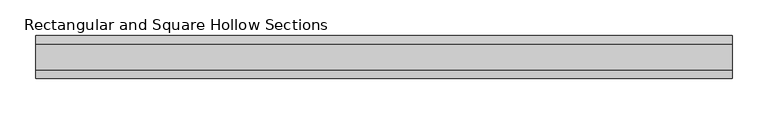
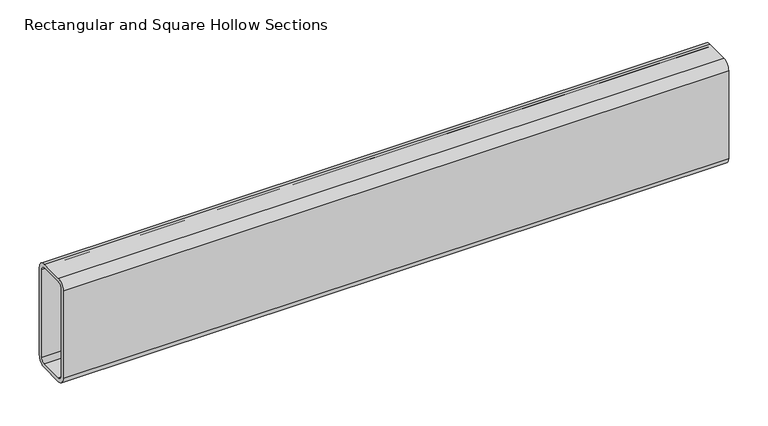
"""IFC4 building model written with IfcOpenShell, lengths in millimetres: beam geometry, Rectangular and Square Hollow Sections : TREC160x60x6."""

from ifc_helpers import new_model, si_unit, point, frame, frame_2d, origin, place, context, project, spatial, polyline, circle_curve, trimmed, segment, composite_curve, outline, extrude, source, transform, mapped, element, save


def rectangular_and_square_hollow_sections_2dbff78a(model_context):
    return source(origin(), model_context, "Body", "SweptSolid", [
        extrude(outline(composite_curve([segment(polyline([(30.0, 68.0), (30.0, -68.0)]), True, "CONTINUOUS"), segment(trimmed(circle_curve(frame_2d((18.0, -68.0)), 12.0), [point((30.0, -68.0))], [point((18.0, -80.0))], False, "CARTESIAN"), True, "CONTINUOUS"), segment(polyline([(18.0, -80.0), (-18.0, -80.0)]), True, "CONTINUOUS"), segment(trimmed(circle_curve(frame_2d((-18.0, -68.0)), 12.0), [point((-18.0, -80.0))], [point((-30.0, -68.0))], False, "CARTESIAN"), True, "CONTINUOUS"), segment(polyline([(-30.0, -68.0), (-30.0, 68.0)]), True, "CONTINUOUS"), segment(trimmed(circle_curve(frame_2d((-18.0, 68.0)), 12.0), [point((-30.0, 68.0))], [point((-18.0, 80.0))], False, "CARTESIAN"), True, "CONTINUOUS"), segment(polyline([(-18.0, 80.0), (18.0, 80.0)]), True, "CONTINUOUS"), segment(trimmed(circle_curve(frame_2d((18.0, 68.0)), 12.0), [point((18.0, 80.0))], [point((30.0, 68.0))], False, "CARTESIAN"), True, "CONTINUOUS")], self_intersect=False), holes=[composite_curve([segment(trimmed(circle_curve(frame_2d((-18.0, 68.0)), 6.0), [point((-18.0, 74.0))], [point((-24.0, 68.0))], True, "CARTESIAN"), True, "CONTINUOUS"), segment(polyline([(-24.0, 68.0), (-24.0, -68.0)]), True, "CONTINUOUS"), segment(trimmed(circle_curve(frame_2d((-18.0, -68.0)), 6.0), [point((-24.0, -68.0))], [point((-18.0, -74.0))], True, "CARTESIAN"), True, "CONTINUOUS"), segment(polyline([(-18.0, -74.0), (18.0, -74.0)]), True, "CONTINUOUS"), segment(trimmed(circle_curve(frame_2d((18.0, -68.0)), 6.0), [point((18.0, -74.0))], [point((24.0, -68.0))], True, "CARTESIAN"), True, "CONTINUOUS"), segment(polyline([(24.0, -68.0), (24.0, 68.0)]), True, "CONTINUOUS"), segment(trimmed(circle_curve(frame_2d((18.0, 68.0)), 6.0), [point((24.0, 68.0))], [point((18.0, 74.0))], True, "CARTESIAN"), True, "CONTINUOUS"), segment(polyline([(18.0, 74.0), (-18.0, 74.0)]), True, "CONTINUOUS")], self_intersect=False)]), frame((-487.0, 0.0, 0.0), z_axis=(1.0, 0.0, 0.0), x_axis=(0.0, 1.0, 0.0)), (0.0, 0.0, 1.0), 974.0),
    ])


if __name__ == "__main__":
    model = new_model("IFC4")
    model_context = context("Model", 3, world=origin())
    ifc_project = project(units=[si_unit("LENGTHUNIT", "METRE", prefix="MILLI")], contexts=[model_context])
    site = spatial("IfcSite", under=ifc_project)
    building = spatial("IfcBuilding", under=site)
    placement = place(None, origin())
    rectangular_and_square_hollow_sections_shape = rectangular_and_square_hollow_sections_2dbff78a(model_context)
    element("IfcBeam", 1, ObjectType="Rectangular and Square Hollow Sections : TREC160x60x6", at=placement, inside=building, context=model_context, shape_type="MappedRepresentation", body=[
        mapped(rectangular_and_square_hollow_sections_shape, transform((0.0, 0.0, 0.0), x_axis=(1.0, 0.0, 0.0), y_axis=(0.0, 1.0, 0.0), z_axis=(0.0, 0.0, 1.0))),
    ])
    save(model, "model.ifc")
